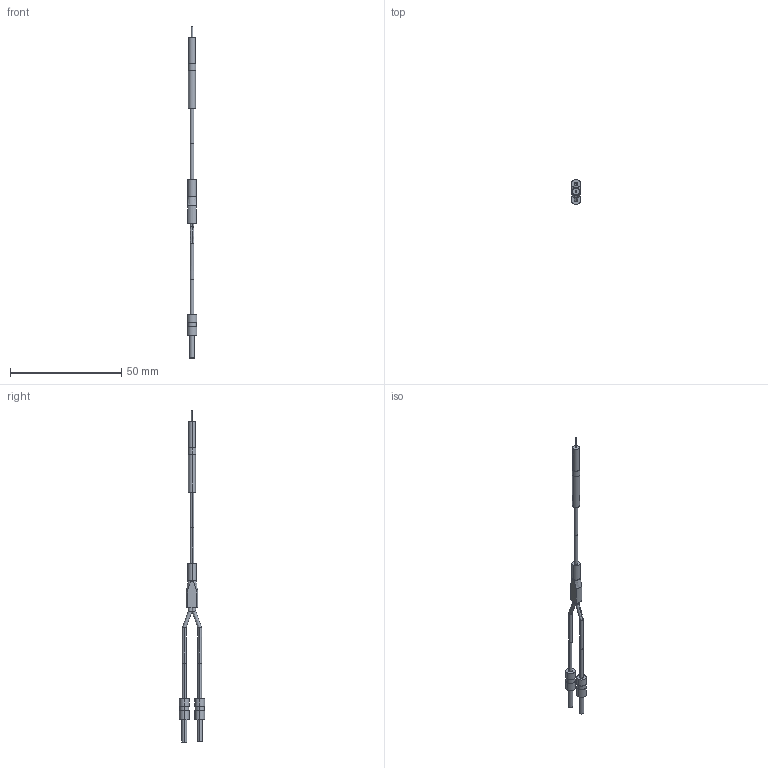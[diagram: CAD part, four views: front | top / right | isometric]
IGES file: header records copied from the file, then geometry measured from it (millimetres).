
Start section: SolidWorks IGES FILE using analytic representation for surfaces
Global section: file name: C:\Documents and Settings\yk0651\デスクトップ\3D_catalog_050904\0_IGES\FD-E22.IGS; native system: SolidWorks 2004 by SolidWorks Corporation; preprocessor: Version 5.3; author: yk0651; date: 050904.182018; units: millimetre
Bounding box: 4.33 x 11.33 x 149.5 mm (x, y, z)
Volume: 1116 mm3; surface area: 1686.3 mm2
Topology: 4 solids, 4 shells, 78 faces, 154 edges, 100 vertices
Faces by surface type: revolution 52, plane 26
